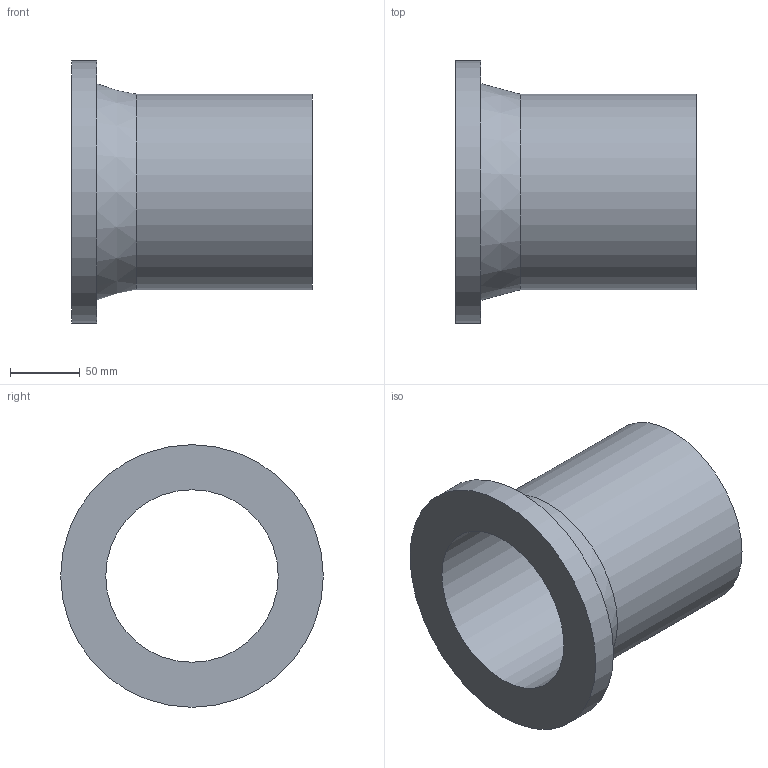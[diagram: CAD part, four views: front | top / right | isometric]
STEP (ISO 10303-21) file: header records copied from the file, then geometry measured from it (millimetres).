
FILE_DESCRIPTION(('Beschreibung'),'1');
FILE_NAME('V:/Ziel/25.80.01.063_SDR_17_PE100_140.STP', '2014-09-15T06:02:33',('Author'), ('Organization'), 'KCM Version 1.1.794.0', 'Kubotek KeyCreator', 'Authorization');
FILE_SCHEMA(('CONFIG_CONTROL_DESIGN'));
Length unit declared in the file: millimetre
Bounding box: 172 x 188 x 188 mm (x, y, z)
Volume: 861072.6 mm3; surface area: 174284.1 mm2
Topology: 1 solids, 1 shells, 7 faces, 18 edges, 21 vertices
Faces by surface type: cylinder 3, plane 3, cone 1
Full cylindrical faces by diameter (mm): 123.4 x1, 140 x1, 188 x1
Entity records: 286 total; most frequent: DIRECTION 41, CARTESIAN_POINT 33, ORIENTED_EDGE 22, AXIS2_PLACEMENT_3D 15, EDGE_CURVE 11, VECTOR 11, LINE 11, EDGE_LOOP 10
